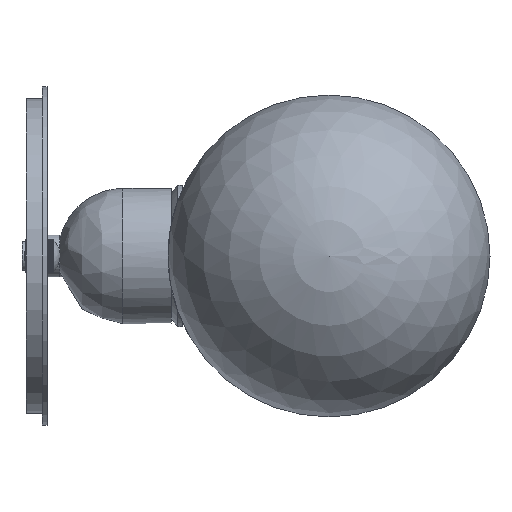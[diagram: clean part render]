
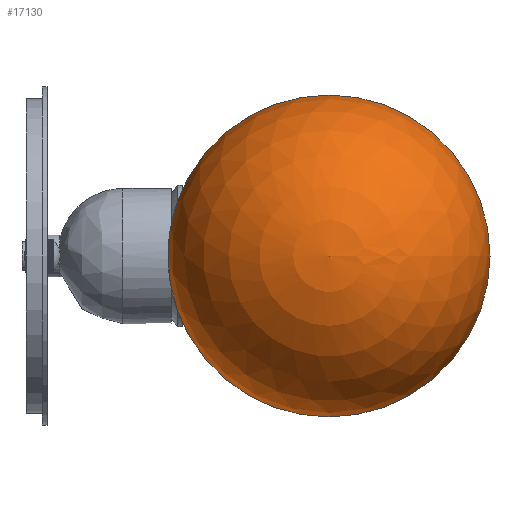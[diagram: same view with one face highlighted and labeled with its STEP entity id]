
A CAD part, left-side view. The second image highlights one B-rep face of the part: STEP entity #17130.
In plain terms, the highlighted spherical face has radius 50 mm.
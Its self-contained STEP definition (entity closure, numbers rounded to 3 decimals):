
#31=SPHERICAL_SURFACE('',#18355,50.);
#5098=FACE_OUTER_BOUND('',#6018,.T.);
#6018=EDGE_LOOP('',(#14509,#14510,#14511,#14512));
#6320=CIRCLE('',#18356,50.);
#6321=CIRCLE('',#18357,50.);
#6322=CIRCLE('',#18358,50.);
#7616=VERTEX_POINT('',#27404);
#7617=VERTEX_POINT('',#27405);
#7618=VERTEX_POINT('',#27407);
#9922=EDGE_CURVE('',#7616,#7617,#6320,.T.);
#9923=EDGE_CURVE('',#7618,#7617,#6321,.T.);
#9924=EDGE_CURVE('',#7617,#7616,#6322,.T.);
#14509=ORIENTED_EDGE('',*,*,#9922,.T.);
#14510=ORIENTED_EDGE('',*,*,#9923,.F.);
#14511=ORIENTED_EDGE('',*,*,#9923,.T.);
#14512=ORIENTED_EDGE('',*,*,#9924,.T.);
#17130=ADVANCED_FACE('',(#5098),#31,.T.);
#18355=AXIS2_PLACEMENT_3D('',#27403,#22738,#22739);
#18356=AXIS2_PLACEMENT_3D('',#27406,#22740,#22741);
#18357=AXIS2_PLACEMENT_3D('',#27408,#22742,#22743);
#18358=AXIS2_PLACEMENT_3D('',#27409,#22744,#22745);
#22738=DIRECTION('center_axis',(-1.,0.,0.));
#22739=DIRECTION('ref_axis',(0.,1.,0.));
#22740=DIRECTION('center_axis',(-1.,0.,0.));
#22741=DIRECTION('ref_axis',(0.,0.,
1.));
#22742=DIRECTION('center_axis',(0.,0.,
1.));
#22743=DIRECTION('ref_axis',(0.,-1.,0.));
#22744=DIRECTION('center_axis',(-1.,0.,0.));
#22745=DIRECTION('ref_axis',(0.,0.,
1.));
#27403=CARTESIAN_POINT('Origin',(-200.,-87.55,-52.5));
#27404=CARTESIAN_POINT('',(-200.,-87.55,-2.5));
#27405=CARTESIAN_POINT('',(-200.,-137.55,-52.5));
#27406=CARTESIAN_POINT('Origin',(-200.,-87.55,-52.5));
#27407=CARTESIAN_POINT('',(-250.,-87.55,-52.5));
#27408=CARTESIAN_POINT('Origin',(-200.,-87.55,-52.5));
#27409=CARTESIAN_POINT('Origin',(-200.,-87.55,-52.5));
